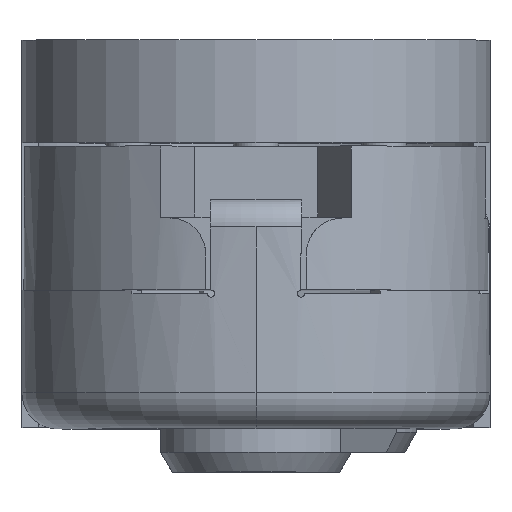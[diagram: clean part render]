
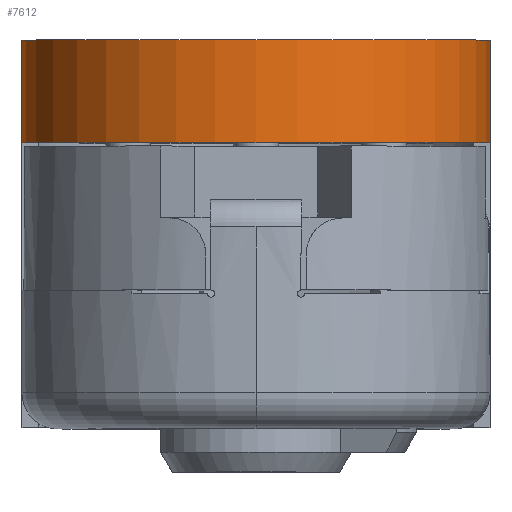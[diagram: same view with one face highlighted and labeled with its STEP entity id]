
A CAD part, top view. The second image highlights one B-rep face of the part: STEP entity #7612.
In plain terms, the highlighted cylindrical face has radius 3.302 mm (diameter 6.604 mm), a partial arc.
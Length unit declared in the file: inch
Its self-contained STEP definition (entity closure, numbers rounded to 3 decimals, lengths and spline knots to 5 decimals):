
#3913=CARTESIAN_POINT('',(0.,0.139,0.));
#3914=DIRECTION('',(0.,1.,0.));
#3915=DIRECTION('',(-1.,0.,0.));
#3916=AXIS2_PLACEMENT_3D('',#3913,#3914,#3915);
#3977=DIRECTION('',(0.,1.,0.));
#3978=VECTOR('',#3977,0.057);
#3979=CARTESIAN_POINT('',(0.13,0.082,0.));
#3980=LINE('',#3979,#3978);
#4058=DIRECTION('',(0.,1.,0.));
#4059=VECTOR('',#4058,0.057);
#4060=CARTESIAN_POINT('',(-0.13,0.082,0.));
#4061=LINE('',#4060,#4059);
#4086=CARTESIAN_POINT('',(0.,0.082,0.));
#4087=DIRECTION('',(0.,-1.,0.));
#4088=DIRECTION('',(1.,0.,0.));
#4089=AXIS2_PLACEMENT_3D('',#4086,#4087,#4088);
#4521=CARTESIAN_POINT('',(-0.13,0.139,0.));
#4523=VERTEX_POINT('',#4521);
#4526=CARTESIAN_POINT('',(0.13,0.139,0.));
#4528=VERTEX_POINT('',#4526);
#4549=CARTESIAN_POINT('',(-0.13,0.082,0.));
#4550=VERTEX_POINT('',#4549);
#4551=CARTESIAN_POINT('',(0.13,0.082,0.));
#4552=VERTEX_POINT('',#4551);
#7601=CARTESIAN_POINT('',(0.,0.139,0.));
#7602=DIRECTION('',(0.,1.,0.));
#7603=DIRECTION('',(-1.,0.,0.));
#7604=AXIS2_PLACEMENT_3D('',#7601,#7602,#7603);
#7605=CYLINDRICAL_SURFACE('',#7604,0.13);
#7606=ORIENTED_EDGE('',*,*,#6749,.T.);
#7607=ORIENTED_EDGE('',*,*,#7578,.T.);
#7608=ORIENTED_EDGE('',*,*,#7447,.T.);
#7609=ORIENTED_EDGE('',*,*,#7485,.F.);
#7610=EDGE_LOOP('',(#7606,#7607,#7608,#7609));
#7611=FACE_OUTER_BOUND('',#7610,.F.);
#3917=CIRCLE('',#3916,0.13);
#4090=CIRCLE('',#4089,0.13);
#6749=EDGE_CURVE('',#4552,#4550,#4090,.T.);
#7447=EDGE_CURVE('',#4523,#4528,#3917,.T.);
#7485=EDGE_CURVE('',#4552,#4528,#3980,.T.);
#7578=EDGE_CURVE('',#4550,#4523,#4061,.T.);
#7612=ADVANCED_FACE('',(#7611),#7605,.T.);
